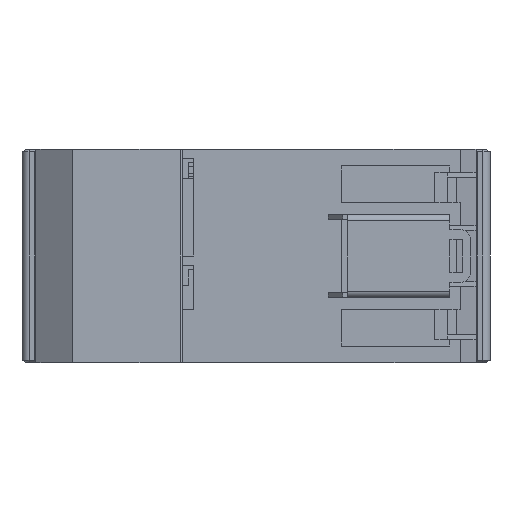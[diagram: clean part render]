
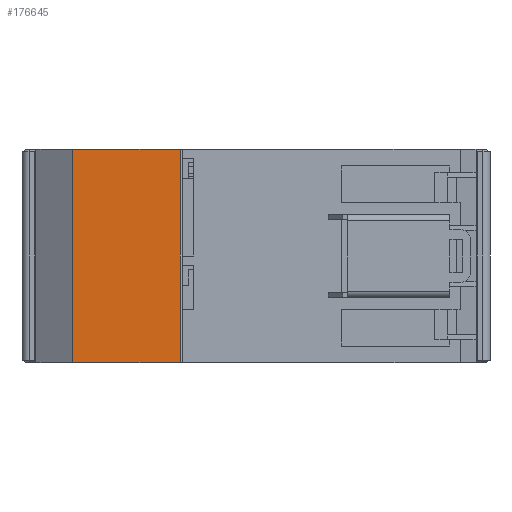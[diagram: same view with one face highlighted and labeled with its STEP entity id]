
A CAD part, front view. The second image highlights one B-rep face of the part: STEP entity #176645.
In plain terms, the highlighted planar face has unit normal (0, -1, 0).
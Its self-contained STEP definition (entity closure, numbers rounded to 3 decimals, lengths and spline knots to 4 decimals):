
#16029=FACE_OUTER_BOUND('',#25674,.T.);
#25674=EDGE_LOOP('',(#148686,#148687,#148688,#148689,#148690,#148691));
#40064=LINE('',#301667,#59396);
#40524=LINE('',#302690,#59856);
#43748=LINE('',#315447,#63080);
#43749=LINE('',#315448,#63081);
#43750=LINE('',#315450,#63082);
#43751=LINE('',#315451,#63083);
#59396=VECTOR('',#210065,0.8991);
#59856=VECTOR('',#211017,0.8991);
#63080=VECTOR('',#217015,0.4449);
#63081=VECTOR('',#217016,0.4449);
#63082=VECTOR('',#217017,0.4449);
#63083=VECTOR('',#217018,0.8898);
#77092=VERTEX_POINT('',#301664);
#77093=VERTEX_POINT('',#301666);
#77393=VERTEX_POINT('',#302687);
#77394=VERTEX_POINT('',#302689);
#79800=VERTEX_POINT('',#315446);
#79801=VERTEX_POINT('',#315449);
#98935=EDGE_CURVE('',#77092,#77093,#40064,.T.);
#99439=EDGE_CURVE('',#77394,#77393,#40524,.T.);
#103054=EDGE_CURVE('',#79800,#77093,#43748,.T.);
#103055=EDGE_CURVE('',#77092,#77394,#43749,.T.);
#103056=EDGE_CURVE('',#79801,#77393,#43750,.T.);
#103057=EDGE_CURVE('',#79800,#79801,#43751,.T.);
#148686=ORIENTED_EDGE('',*,*,#103054,.T.);
#148687=ORIENTED_EDGE('',*,*,#98935,.F.);
#148688=ORIENTED_EDGE('',*,*,#103055,.T.);
#148689=ORIENTED_EDGE('',*,*,#99439,.T.);
#148690=ORIENTED_EDGE('',*,*,#103056,.F.);
#148691=ORIENTED_EDGE('',*,*,#103057,.F.);
#159370=PLANE('',#184616);
#176645=ADVANCED_FACE('',(#16029),#159370,.T.);
#184616=AXIS2_PLACEMENT_3D('',#315445,#217013,#217014);
#210065=DIRECTION('',(1.,0.,0.));
#211017=DIRECTION('',(1.,0.,0.));
#217013=DIRECTION('center_axis',(0.,-1.,0.));
#217014=DIRECTION('ref_axis',(0.,0.,
1.));
#217015=DIRECTION('',(0.,0.,1.));
#217016=DIRECTION('',(0.,0.,-1.));
#217017=DIRECTION('',(0.,0.,-1.));
#217018=DIRECTION('',(0.,0.,-1.));
#301664=CARTESIAN_POINT('',(-1.5291,-0.1575,1.7795));
#301666=CARTESIAN_POINT('',(-0.6299,-0.1575,1.7795));
#301667=CARTESIAN_POINT('',(-1.5291,-0.1575,1.7795));
#302687=CARTESIAN_POINT('',(-0.6299,-0.1575,0.));
#302689=CARTESIAN_POINT('',(-1.5291,-0.1575,0.));
#302690=CARTESIAN_POINT('',(-1.5291,-0.1575,0.));
#315445=CARTESIAN_POINT('Origin',(-1.5515,-0.1575,
1.5571));
#315446=CARTESIAN_POINT('',(-0.6299,-0.1575,1.3346));
#315447=CARTESIAN_POINT('',(-0.6299,-0.1575,1.3346));
#315448=CARTESIAN_POINT('',(-1.5291,-0.1575,1.7795));
#315449=CARTESIAN_POINT('',(-0.6299,-0.1575,0.4449));
#315450=CARTESIAN_POINT('',(-0.6299,-0.1575,0.4449));
#315451=CARTESIAN_POINT('',(-0.6299,-0.1575,1.3346));
